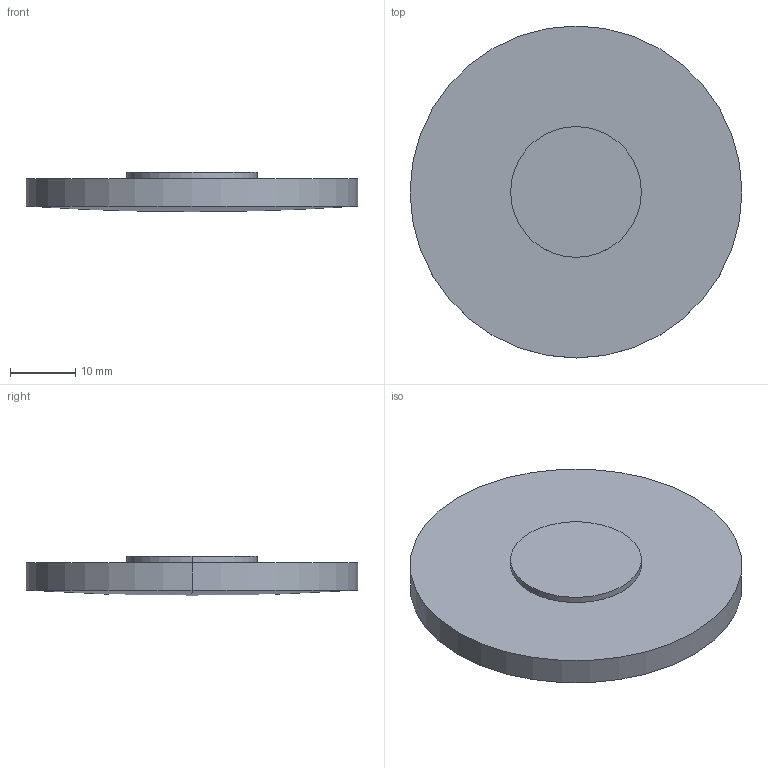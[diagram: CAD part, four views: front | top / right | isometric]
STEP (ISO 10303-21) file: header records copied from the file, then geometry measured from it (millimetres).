
FILE_DESCRIPTION(('STEP AP214'),'1');
FILE_NAME('LLF-51-1M.STEP','2020-03-09T17:41:28',(' '),(' '),'Spatial InterOp 3D',' ',' ');
FILE_SCHEMA(('AUTOMOTIVE_DESIGN { 1 0 10303 214 1 1 1 1 }'));
Length unit declared in the file: millimetre
Products named in the file (1): 1
Bounding box: 50.8 x 50.8 x 6 mm (x, y, z)
Volume: 9599.7 mm3; surface area: 5411.3 mm2
Topology: 2 solids, 2 shells, 9 faces, 16 edges, 9 vertices
Faces by surface type: cylinder 4, plane 3, sphere 2
Entity records: 229 total; most frequent: DIRECTION 46, CARTESIAN_POINT 34, ORIENTED_EDGE 28, AXIS2_PLACEMENT_3D 21, EDGE_CURVE 14, CIRCLE 10, ADVANCED_FACE 9, FACE_OUTER_BOUND 9
